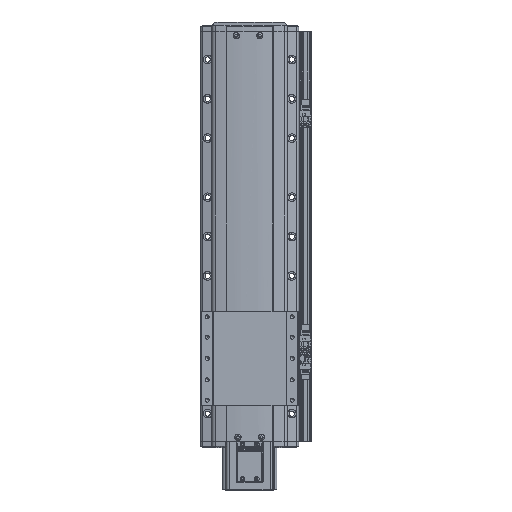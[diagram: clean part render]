
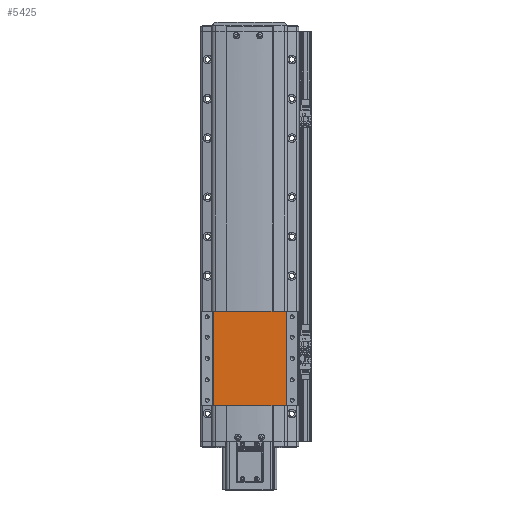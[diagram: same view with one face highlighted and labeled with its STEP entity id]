
A CAD part, top view. The second image highlights one B-rep face of the part: STEP entity #5425.
In plain terms, the highlighted planar face has unit normal (0, 0, 1).
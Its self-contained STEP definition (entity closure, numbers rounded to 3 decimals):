
#5425=ADVANCED_FACE('',(#13641),#13642,.F.);
#13641=FACE_OUTER_BOUND('',#25553,.T.);
#13642=PLANE('',#25554);
#25553=EDGE_LOOP('',(#42689,#42690,#42691,#42692));
#25554=AXIS2_PLACEMENT_3D('',#42693,#42694,#42695);
#42689=ORIENTED_EDGE('',*,*,#73343,.F.);
#42690=ORIENTED_EDGE('',*,*,#73344,.F.);
#42691=ORIENTED_EDGE('',*,*,#72547,.F.);
#42692=ORIENTED_EDGE('',*,*,#73345,.T.);
#42693=CARTESIAN_POINT('',(-300.,-82.778,36.5));
#42694=DIRECTION('',(0.,0.,-1.0));
#42695=DIRECTION('',(-1.0,0.,0.));
#72547=EDGE_CURVE('',#87444,#87446,#87447,.T.);
#73343=EDGE_CURVE('',#88765,#88766,#88767,.T.);
#73344=EDGE_CURVE('',#87446,#88765,#88768,.T.);
#73345=EDGE_CURVE('',#87444,#88766,#88769,.T.);
#87444=VERTEX_POINT('',#108192);
#87446=VERTEX_POINT('',#108194);
#87447=LINE('',#108195,#108196);
#88765=VERTEX_POINT('',#110041);
#88766=VERTEX_POINT('',#110042);
#88767=LINE('',#110043,#110044);
#88768=LINE('',#110045,#110046);
#88769=LINE('',#110047,#110048);
#108192=CARTESIAN_POINT('',(-253.624,-82.778,36.5));
#108194=CARTESIAN_POINT('',(-346.376,-82.778,36.5));
#108195=CARTESIAN_POINT('',(-253.624,-82.778,36.5));
#108196=VECTOR('',#131987,10.0);
#110041=CARTESIAN_POINT('',(-346.376,37.222,36.5));
#110042=CARTESIAN_POINT('',(-253.624,37.222,36.5));
#110043=CARTESIAN_POINT('',(-253.624,37.222,36.5));
#110044=VECTOR('',#133055,10.0);
#110045=CARTESIAN_POINT('',(-346.376,-82.778,36.5));
#110046=VECTOR('',#133056,10.0);
#110047=CARTESIAN_POINT('',(-253.624,-82.778,36.5));
#110048=VECTOR('',#133057,10.0);
#131987=DIRECTION('',(-1.0,0.,0.));
#133055=DIRECTION('',(1.0,0.,0.));
#133056=DIRECTION('',(0.,1.0,0.));
#133057=DIRECTION('',(0.,1.0,0.));
